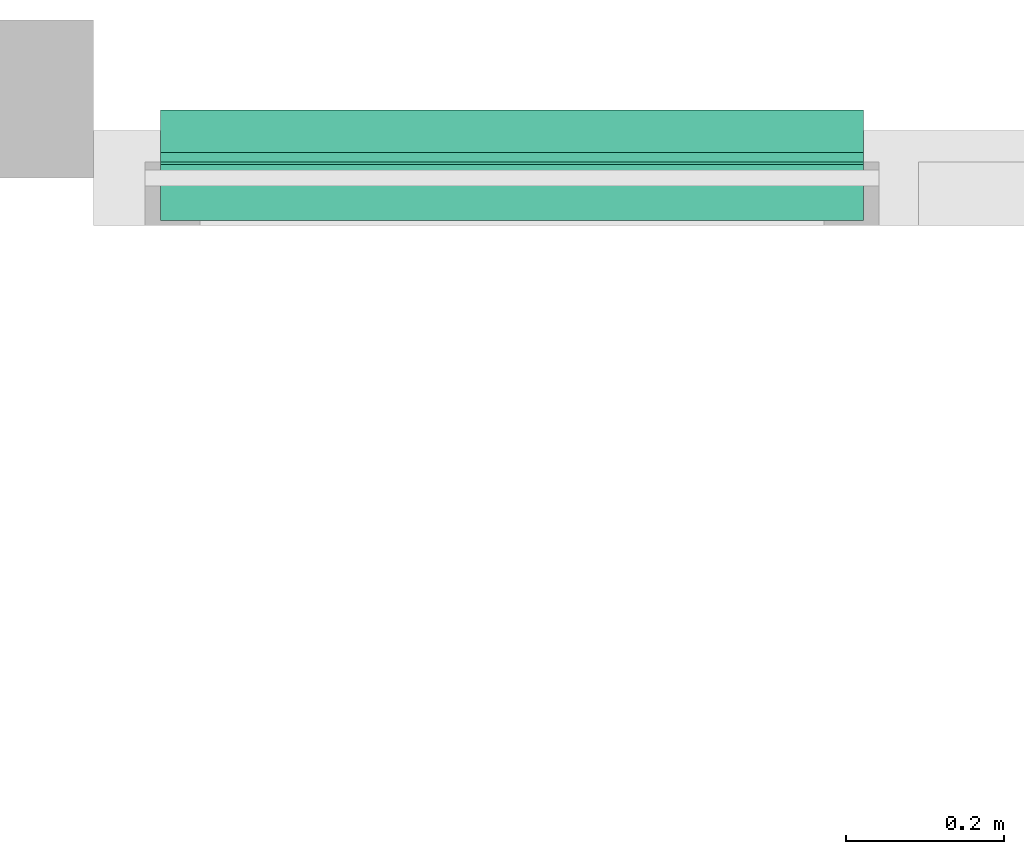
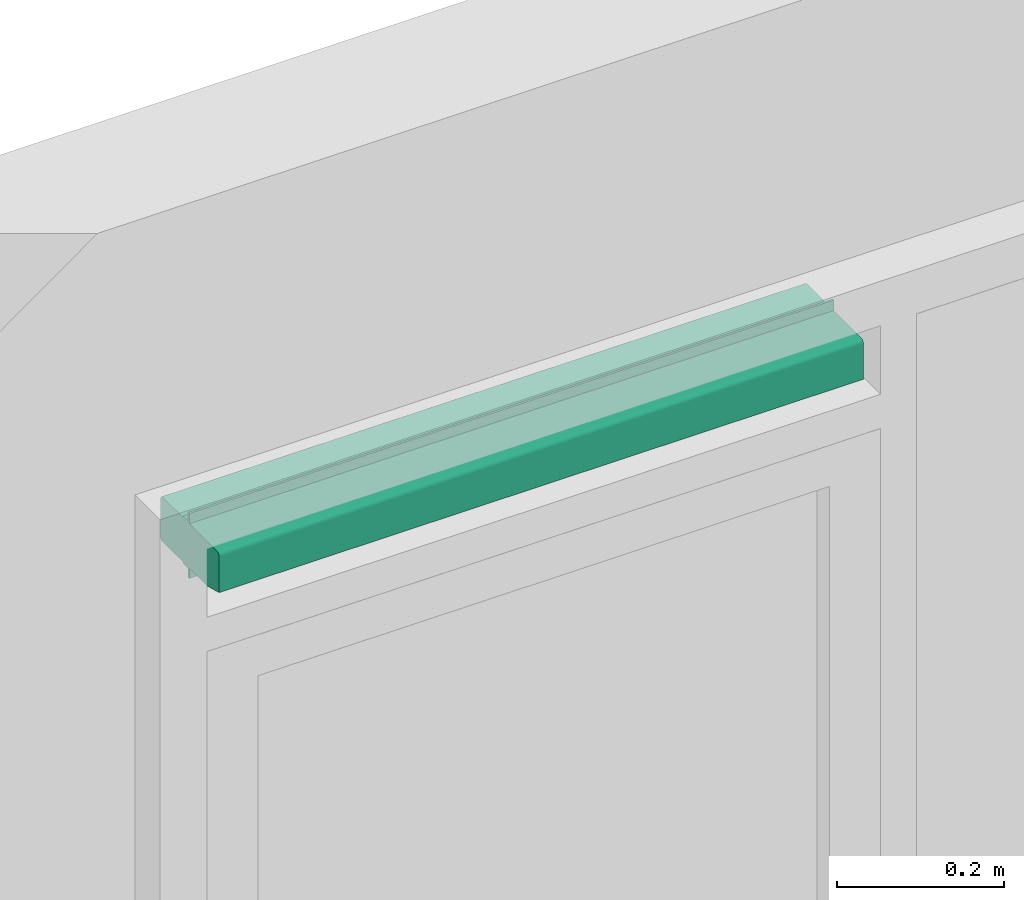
# One storey, part 4 of 4: 1 air terminal, 1 element without a shape of its own.
"""IFC4 building model written with IfcOpenShell, lengths in millimetres."""

import ifcopenshell
import ifcopenshell.guid

model = None  # the IFC model being written
_history = None  # IfcOwnerHistory: only IFC2X3 demands one
_inside = {}  # id of a spatial element -> (the spatial element, [elements in it])
_under = {}  # id of a project, library or spatial element -> (it, [spatial elements below it])
_declared = {}  # id of a project -> (the project, [libraries it declares])
_typed = {}  # id of a type object -> (the type object, [elements of that type])
_made_of = {}  # id of a material, layer set ... -> (it, [elements and type objects made of it])


def new_model(schema):
    """Start an empty IFC model of exactly this schema.

    Asked for "IFC4X3", IfcOpenShell would pick the latest addendum, in which some entities
    have other attributes; the version numbers below select the first issue.
    IFC2X3 requires an IfcOwnerHistory on every rooted entity: one is made here for all.
    """
    global model, _history
    if schema == "IFC4X3":
        model = ifcopenshell.file(schema_version=(4, 3, 0, 0))
    else:
        model = ifcopenshell.file(schema=schema)
    _inside.clear()
    _under.clear()
    _declared.clear()
    _typed.clear()
    _made_of.clear()
    _history = None
    if model.schema == "IFC2X3":
        org = make("IfcOrganization", Name="unknown")
        user = make(
            "IfcPersonAndOrganization",
            ThePerson=make("IfcPerson", FamilyName="unknown"),
            TheOrganization=org,
        )
        app = make(
            "IfcApplication",
            ApplicationDeveloper=org,
            Version="unknown",
            ApplicationFullName="unknown",
            ApplicationIdentifier="unknown",
        )
        _history = make(
            "IfcOwnerHistory",
            OwningUser=user,
            OwningApplication=app,
            ChangeAction="ADDED",
            CreationDate=0,
        )
    return model


def make(cls, **values):
    """One entity of the class cls with the attributes given. An attribute that is None is left unset."""
    return model.create_entity(
        cls, **{name: value for name, value in values.items() if value is not None}
    )


def entity(cls, *values):
    """Any entity or typed value of the class cls, its attributes in the order of the schema. None: left unset."""
    e = model.create_entity(cls)
    for i, value in enumerate(values):
        if value is not None:
            e[i] = value
    return e


def rooted(cls, **values):
    """An entity with a GlobalId (a new one), such as an element, a storey or a relation."""
    return make(cls, GlobalId=ifcopenshell.guid.new(), OwnerHistory=_history, **values)


def si_unit(unit_type, name, prefix=None):
    """IfcSIUnit, for example si_unit("LENGTHUNIT", "METRE", prefix="MILLI")."""
    return make("IfcSIUnit", UnitType=unit_type, Prefix=prefix, Name=name)


def converted_unit(unit_type, name, factor, base, dimensions=None, offset=None):
    """IfcConversionBasedUnit, such as the inch: factor (a typed value) times the base unit."""
    return make(
        "IfcConversionBasedUnit"
        if offset is None
        else "IfcConversionBasedUnitWithOffset",
        ConversionOffset=offset,
        Dimensions=None
        if dimensions is None
        else entity("IfcDimensionalExponents", *dimensions),
        UnitType=unit_type,
        Name=name,
        ConversionFactor=make(
            "IfcMeasureWithUnit", ValueComponent=factor, UnitComponent=base
        ),
    )


def derived_unit(unit_type, elements):
    """IfcDerivedUnit: a product of units, each with its exponent."""
    return make(
        "IfcDerivedUnit",
        Elements=[
            make("IfcDerivedUnitElement", Unit=unit, Exponent=power)
            for unit, power in elements
        ],
        UnitType=unit_type,
    )


def assignment(units):
    """IfcUnitAssignment: the units of a project."""
    return None if units is None else make("IfcUnitAssignment", Units=units)


def point(xyz):
    """IfcCartesianPoint."""
    return None if xyz is None else make("IfcCartesianPoint", Coordinates=xyz)


def direction(xyz):
    """IfcDirection."""
    return None if xyz is None else make("IfcDirection", DirectionRatios=xyz)


def frame(location, z_axis=None, x_axis=None):
    """IfcAxis2Placement3D, a coordinate frame: its origin and axes. An axis left out is left unset."""
    return make(
        "IfcAxis2Placement3D",
        Location=point(location),
        Axis=direction(z_axis),
        RefDirection=direction(x_axis),
    )


def origin():
    """The frame at (0, 0, 0) with its axes left unset."""
    return frame((0.0, 0.0, 0.0))


def place(relative_to, where):
    """IfcLocalPlacement: puts the frame where relative to a parent placement (None: the world)."""
    return make(
        "IfcLocalPlacement", PlacementRelTo=relative_to, RelativePlacement=where
    )


def context(
    kind, dimensions, precision=None, world=None, true_north=None, identifier=None
):
    """IfcGeometricRepresentationContext, for example the 3D "Model" context."""
    return make(
        "IfcGeometricRepresentationContext",
        ContextIdentifier=identifier,
        ContextType=kind,
        CoordinateSpaceDimension=dimensions,
        Precision=precision,
        WorldCoordinateSystem=world,
        TrueNorth=true_north,
    )


def subcontext(parent, identifier, kind, view, scale=None):
    """IfcGeometricRepresentationSubContext, for example "Body" below "Model"."""
    return make(
        "IfcGeometricRepresentationSubContext",
        ContextIdentifier=identifier,
        ContextType=kind,
        ParentContext=parent,
        TargetScale=scale,
        TargetView=view,
    )


def project(units=None, contexts=None):
    """IfcProject with its units and contexts."""
    return rooted(
        "IfcProject",
        Name="project",
        RepresentationContexts=contexts,
        UnitsInContext=assignment(units),
    )


def spatial(cls, under=None, at=None, **own):
    """A site, building, storey or space (cls), placed at a placement, below another one or the project."""
    s = rooted(cls, ObjectPlacement=at, **own)
    if under is not None:
        _under.setdefault(under.id(), (under, []))[1].append(s)
    return s


def point_list(points):
    """IfcCartesianPointList2D or 3D."""
    cls = (
        "IfcCartesianPointList2D" if len(points[0]) == 2 else "IfcCartesianPointList3D"
    )
    return make(cls, CoordList=points)


def line(*indices):
    """IfcLineIndex: a straight run through numbered points of an indexed curve."""
    return model.create_entity("IfcLineIndex", indices)


def arc(*indices):
    """IfcArcIndex: an arc through three numbered points of an indexed curve."""
    return model.create_entity("IfcArcIndex", indices)


def indexed_curve(points, segments=None, self_intersect=None):
    """IfcIndexedPolyCurve: lines and arcs through numbered points (the first is 1)."""
    return make(
        "IfcIndexedPolyCurve",
        Points=point_list(points),
        Segments=segments,
        SelfIntersect=self_intersect,
    )


def outline(outer, holes=None, kind="AREA"):
    """IfcArbitraryClosedProfileDef: a profile drawn as a closed curve; with holes, ...WithVoids."""
    if holes is None:
        return make("IfcArbitraryClosedProfileDef", ProfileType=kind, OuterCurve=outer)
    return make(
        "IfcArbitraryProfileDefWithVoids",
        ProfileType=kind,
        OuterCurve=outer,
        InnerCurves=holes,
    )


def extrude(swept, where, along, depth):
    """IfcExtrudedAreaSolid: the profile swept, set in the frame where, extruded along a direction by depth."""
    return make(
        "IfcExtrudedAreaSolid",
        SweptArea=swept,
        Position=where,
        ExtrudedDirection=direction(along),
        Depth=depth,
    )


def shape(context_of_items, identifier, shape_type, items):
    """IfcShapeRepresentation: the items that make up one representation, for example the "Body"."""
    return make(
        "IfcShapeRepresentation",
        ContextOfItems=context_of_items,
        RepresentationIdentifier=identifier,
        RepresentationType=shape_type,
        Items=items,
    )


def source(mapping_origin, context_of_items, identifier, shape_type, items):
    """IfcRepresentationMap: a shape defined once, which mapped items show again and again."""
    return make(
        "IfcRepresentationMap",
        MappingOrigin=mapping_origin,
        MappedRepresentation=shape(context_of_items, identifier, shape_type, items),
    )


def transform(
    local_origin,
    x_axis=None,
    y_axis=None,
    z_axis=None,
    scale=None,
    scale2=None,
    scale3=None,
    uniform=True,
):
    """IfcCartesianTransformationOperator3D, or its non-uniform kind. x_axis, y_axis, z_axis: its Axis1, 2, 3."""
    if uniform:
        return make(
            "IfcCartesianTransformationOperator3D",
            Axis1=direction(x_axis),
            Axis2=direction(y_axis),
            LocalOrigin=point(local_origin),
            Scale=scale,
            Axis3=direction(z_axis),
        )
    return make(
        "IfcCartesianTransformationOperator3DnonUniform",
        Axis1=direction(x_axis),
        Axis2=direction(y_axis),
        LocalOrigin=point(local_origin),
        Scale=scale,
        Axis3=direction(z_axis),
        Scale2=scale2,
        Scale3=scale3,
    )


def mapped(mapping_source, mapping_target):
    """IfcMappedItem: shows the shape of a source again, moved by a transform."""
    return make(
        "IfcMappedItem", MappingSource=mapping_source, MappingTarget=mapping_target
    )


def material(Name=None, Category=None):
    """IfcMaterial."""
    return make("IfcMaterial", Name=Name, Category=Category)


def made_of(thing, what):
    """Note that an element or type object is made of a material, layer set ...; save() writes the relation."""
    if what is not None:
        _made_of.setdefault(what.id(), (what, []))[1].append(thing)
    return thing


def type_object(cls, material=None, **own):
    """A type object (cls), such as IfcWallType, which elements share."""
    return made_of(rooted(cls, **own), material)


def type_shapes(of_type, sources):
    """Give a type object the sources (RepresentationMaps) that its elements show as mapped items."""
    of_type.RepresentationMaps = sources


def element(
    cls,
    number,
    at=None,
    inside=None,
    cuts=None,
    type_object=None,
    material=None,
    context=None,
    identifier="Body",
    shape_type=None,
    held_by="IfcProductDefinitionShape",
    body=None,
    shapes=None,
    **own,
):
    """One element of the class cls, such as IfcWall. Its Tag is "e" and its number.

    at: its placement. inside: the storey or other place that contains it. cuts: it is an
    opening in that element (IfcRelVoidsElement). A single representation is given by context,
    identifier, shape_type and body (its items); several are given by shapes. held_by: the class
    of the entity that holds the representations. save() writes the other relations.
    """
    e = rooted(cls, Tag="e%d" % number, ObjectPlacement=at, **own)
    if body is not None:
        shapes = [shape(context, identifier, shape_type, body)]
    if shapes is not None:
        e.Representation = make(held_by, Representations=shapes)
    if inside is not None:
        _inside.setdefault(inside.id(), (inside, []))[1].append(e)
    if cuts is not None:
        rooted(
            "IfcRelVoidsElement", RelatingBuildingElement=cuts, RelatedOpeningElement=e
        )
    if type_object is not None:
        _typed.setdefault(type_object.id(), (type_object, []))[1].append(e)
    return made_of(e, material)


def aggregate(whole, parts):
    """IfcRelAggregates: a whole, such as a stair, and the parts it consists of."""
    return rooted("IfcRelAggregates", RelatingObject=whole, RelatedObjects=parts)


def save(model, path):
    """Write the relations noted so far, then the file.

    IfcRelAggregates (storeys below a building ...), IfcRelContainedInSpatialStructure (elements
    in a storey), IfcRelDefinesByType, IfcRelAssociatesMaterial and IfcRelDeclares: one each for
    every whole, place, type object, material and project.
    """
    for whole, parts in _under.values():
        aggregate(whole, parts)
    for where, things in _inside.values():
        rooted(
            "IfcRelContainedInSpatialStructure",
            RelatedElements=things,
            RelatingStructure=where,
        )
    for kind, things in _typed.values():
        rooted("IfcRelDefinesByType", RelatedObjects=things, RelatingType=kind)
    for what, things in _made_of.values():
        rooted("IfcRelAssociatesMaterial", RelatedObjects=things, RelatingMaterial=what)
    for by, libraries in _declared.values():
        rooted("IfcRelDeclares", RelatingContext=by, RelatedDefinitions=libraries)
    model.write(path)


model = new_model("IFC4")

# Units and contexts
model_context = context("Model", 3, precision=0.01, world=origin(), true_north=direction((6.123031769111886e-17, 1.0)))
plan_context = context("Plan", 3, precision=0.01, world=origin(), true_north=direction((6.123031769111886e-17, 1.0)))
body_context = subcontext(model_context, "Body", "Model", "MODEL_VIEW")
ifc_project = project(units=[si_unit("LENGTHUNIT", "METRE", prefix="MILLI"), converted_unit("PLANEANGLEUNIT", "DEGREE", entity("IfcPlaneAngleMeasure", 0.017453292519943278), si_unit("PLANEANGLEUNIT", "RADIAN"), dimensions=[0, 0, 0, 0, 0, 0, 0]), si_unit("AREAUNIT", "SQUARE_METRE"), si_unit("VOLUMEUNIT", "CUBIC_METRE"), si_unit("POWERUNIT", "WATT"), derived_unit("USERDEFINED", [(si_unit("MASSUNIT", "GRAM", prefix="KILO"), 1), (si_unit("TIMEUNIT", "SECOND"), -3)])], contexts=[model_context, plan_context])

# Site, building, storey
site_placement = place(None, origin())
site = spatial("IfcSite", under=ifc_project, at=site_placement, Name="[ComplexCode]", CompositionType="ELEMENT")
building_placement = place(site_placement, origin())
building = spatial("IfcBuilding", under=site, at=building_placement, Name="[BouwwerkCode]", CompositionType="ELEMENT")
storey_placement = place(building_placement, origin())
storey = spatial("IfcBuildingStorey", under=building, at=storey_placement, Name="00", CompositionType="ELEMENT", Elevation=0.0)

# Assembly, air terminal
element_assembly_type = type_object("IfcElementAssemblyType", Name="Assemblies : Generic Models Assembly : kozijncombinatie_buiten", PredefinedType="NOTDEFINED")
assembly_placement = place(storey_placement, origin())
assembly = element("IfcElementAssembly", 1, at=assembly_placement, inside=storey, type_object=element_assembly_type, Name="Assemblies : Generic Models Assembly : kozijncombinatie_buiten", ObjectType="kozijncombinatie", AssemblyPlace="NOTDEFINED", PredefinedType="NOTDEFINED")
ifc_material = material(Name="divers")
air_terminal_type = type_object("IfcAirTerminalType", Name="Air Terminals : RBS_57_AT_ventilatierooster_BUVA_SH : Acoustream_65", PredefinedType="GRILLE", material=ifc_material)
shared_shape = source(origin(), body_context, "Body", "SweptSolid", [
    extrude(outline(indexed_curve([(37.29258317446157, -43.76853634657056), (66.28031622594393, -43.76853634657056), (79.86764901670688, 6.940079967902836), (79.36814690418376, 10.734175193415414), (76.3321151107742, 13.063804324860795), (12.58101057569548, 30.145861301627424), (16.463296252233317, 44.63474869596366), (13.565518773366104, 45.4112058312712), (10.256586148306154, 33.06210115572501), (-1.3345237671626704, 36.16792969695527), (-1.9078768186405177, 34.028146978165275), (-49.23824230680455, 46.710280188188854), (-53.03233753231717, 46.21077807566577), (-55.361966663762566, 43.17474628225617), (-69.59701414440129, -9.951174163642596), (-69.09751203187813, -13.745269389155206), (-66.06148023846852, -16.07489852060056), (-18.731114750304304, -28.75703173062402), (-19.304467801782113, -30.89681444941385), (-7.713357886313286, -34.00264299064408), (-11.022290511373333, -46.35174766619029), (-8.124513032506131, -47.12820480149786), (-4.242227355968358, -32.639317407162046)], segments=[line(1, 2, 3), arc(3, 4, 5), line(5, 6, 7, 8, 9, 10, 11, 12), arc(12, 13, 14), line(14, 15), arc(15, 16, 17), line(17, 18, 19, 20, 21, 22, 23, 1)], self_intersect=False)), frame((-445.0, -4.35000000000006, 32.62512886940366), z_axis=(1.0, 0.0, 0.0), x_axis=(0.0, 0.9659258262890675, 0.25881904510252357)), (0.0, 0.0, 1.0), 889.9999999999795),
])
type_shapes(air_terminal_type, [shared_shape])
air_terminal_placement = place(assembly_placement, frame((12405.0, 7417.0, 2452.78473391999), z_axis=(0.0, 0.0, 1.0), x_axis=(-1.0, 0.0, 0.0)))
air_terminal = element("IfcAirTerminal", 2, at=air_terminal_placement, type_object=air_terminal_type, material=ifc_material, Name="Air Terminals : RBS_57_AT_ventilatierooster_BUVA_SH : Acoustream_65", ObjectType="ventilatierooster", PredefinedType="GRILLE", context=body_context, shape_type="MappedRepresentation", body=[
    mapped(shared_shape, transform((0.0, 0.0, 0.0), scale=1.0)),
])
aggregate(assembly, [air_terminal])

save(model, "model.ifc")
